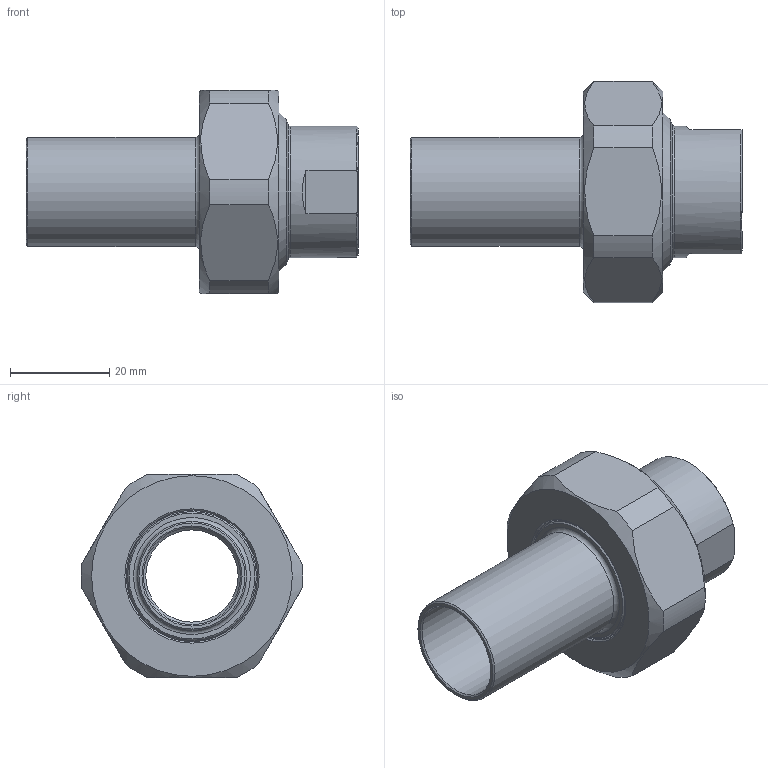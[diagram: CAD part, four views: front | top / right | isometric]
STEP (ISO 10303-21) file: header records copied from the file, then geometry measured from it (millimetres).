
FILE_DESCRIPTION(/* description */ (''),/* implementation_level */ '2;1');
FILE_NAME(/* name */ 'C:\Users\cad\Desktop\Zeichnungen neu von Ralph\Ganze Kupplungen\3D_Kupplung-R666-PE-G\3D_R666-PE-G-22-DN25-DN15_1711309355.stp',/* time_stamp */ '2021-07-16T08:06:14+02:00',/* author */ ('cad'),/* organization */ (''),/* preprocessor_version */ 'ST-DEVELOPER v18.1',/* originating_system */ 'Autodesk Inventor 2022',/* authorisation */ '');
FILE_SCHEMA (('AUTOMOTIVE_DESIGN { 1 0 10303 214 3 1 1 }'));
Length unit declared in the file: millimetre
Products named in the file (4): 3D_R666-PE-G-22-DN25-DN15_1711309355; 3D_R666-M-DN25_17113930; 3D_R666-G-DN15-DN25_17113520; 3D_R666-PE-22-DN25_17113474
Assembly tree (3 placements, depth 2):
  3D_R666-PE-G-22-DN25-DN15_1711309355
    3D_R666-M-DN25_17113930
    3D_R666-G-DN15-DN25_17113520
    3D_R666-PE-22-DN25_17113474
Bounding box: 67 x 44.68 x 41 mm (x, y, z)
Volume: 25535.1 mm3; surface area: 15700.3 mm2
Topology: 3 solids, 3 shells, 56 faces, 138 edges, 91 vertices
Faces by surface type: plane 19, cone 18, cylinder 15, torus 4
Full cylindrical faces by diameter (mm): 18.631 x1, 19.6 x1, 22 x1, 26 x1, 26.5 x2, 29.5 x1, 30.291 x1, 33.1 x1
Entity records: 1834 total; most frequent: DIRECTION 325, CARTESIAN_POINT 324, ORIENTED_EDGE 276, AXIS2_PLACEMENT_3D 140, EDGE_CURVE 138, VERTEX_POINT 91, CIRCLE 75, EDGE_LOOP 65
